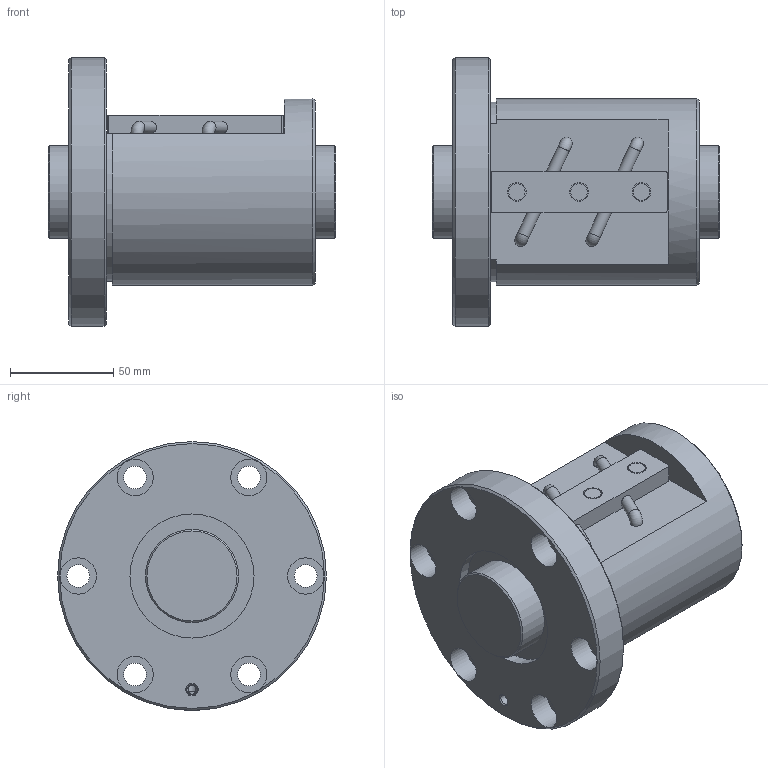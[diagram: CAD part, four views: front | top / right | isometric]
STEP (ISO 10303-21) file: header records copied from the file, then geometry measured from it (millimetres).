
FILE_DESCRIPTION(/* description */ ('STEP AP203'),/* implementation_level */ '2;1');
FILE_NAME(/* name */ 'BNF4512V-5RRG1+139LC0_000_rev',/* time_stamp */ '2024-08-06T08:55:10+02:00',/* author */ ('License CC BY-ND 4.0'),/* organization */ ('CADENAS'),/* preprocessor_version */ 'ST-DEVELOPER v19.3',/* originating_system */ 'PARTsolutions',/* authorisation */ ' ');
FILE_SCHEMA (('CONFIG_CONTROL_DESIGN'));
Length unit declared in the file: millimetre
Products named in the file (3): BNF4512V-5RRG1+139LC0_000_rev; BNF 4512-5RR000 Shaft; BNF 4512-5RR Nut
Assembly tree (2 placements, depth 2):
  BNF4512V-5RRG1+139LC0_000_rev
    BNF 4512-5RR000 Shaft
    BNF 4512-5RR Nut
Bounding box: 139 x 130 x 130 mm (x, y, z)
Volume: 824214.8 mm3; surface area: 108125.3 mm2
Topology: 2 solids, 2 shells, 77 faces, 168 edges, 110 vertices
Faces by surface type: cylinder 37, plane 29, cone 7, torus 4
Full cylindrical faces by diameter (mm): 4.5 x2, 4.917 x1, 5.865 x4, 8 x3, 9 x3, 11 x6, 17.5 x6, 45 x2, 60 x2, 90 x1, 130 x1
Entity records: 1943 total; most frequent: DIRECTION 348, CARTESIAN_POINT 324, ORIENTED_EDGE 220, AXIS2_PLACEMENT_3D 162, EDGE_LOOP 160, FACE_BOUND 160, EDGE_CURVE 110, VERTEX_POINT 96
